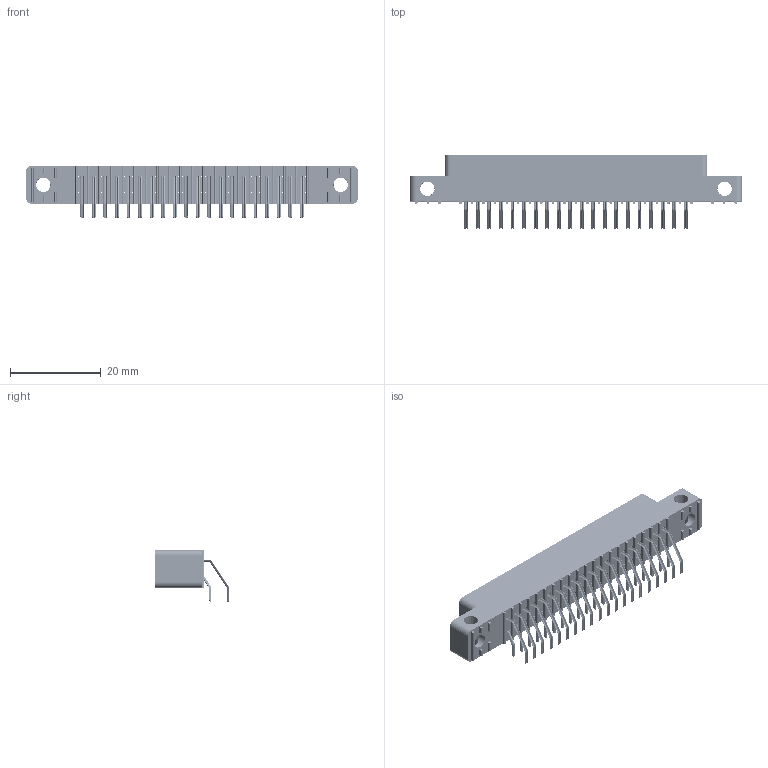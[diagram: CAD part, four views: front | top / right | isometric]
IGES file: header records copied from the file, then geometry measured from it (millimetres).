
Start section: SolidWorks IGES file using analytic representation for surfaces
Global section: file name: G:\00-3D USA\-42- C10876-H, _ _C_ _DRA_\_ _C_ _DRAS\_ _C20DRAS.igs; native system: SolidWorks 2016; preprocessor: SolidWorks 2016; author: lhsu; date: 180501.163742; units: inch
Bounding box: 73.03 x 16.43 x 11.56 mm (x, y, z)
Surface area: 9404.4 mm2 (no closed solid volume)
Topology: 0 solids, 0 shells, 4575 faces, 35538 edges, 35378 vertices
Faces by surface type: bspline 2684, revolution 1891
